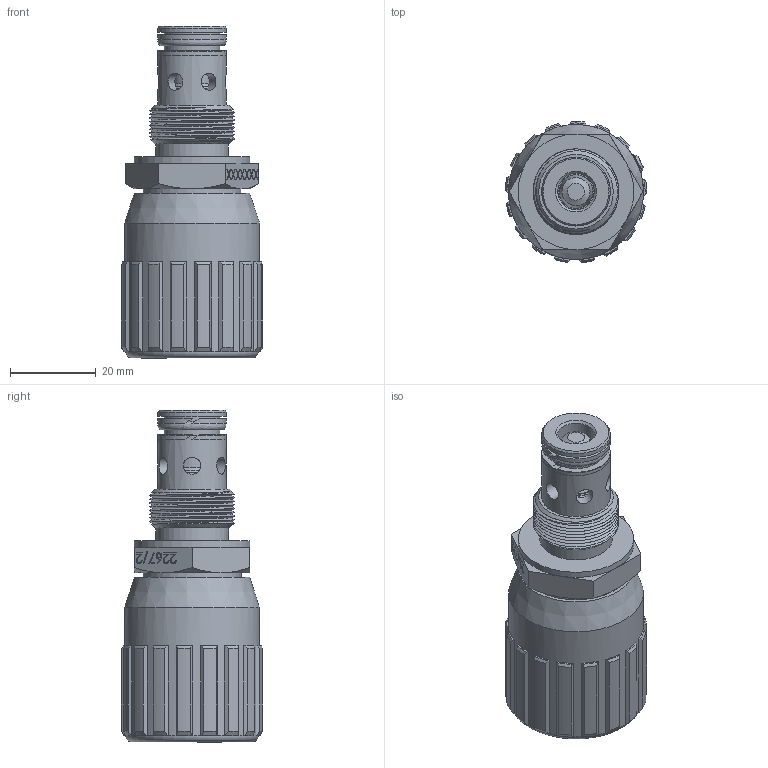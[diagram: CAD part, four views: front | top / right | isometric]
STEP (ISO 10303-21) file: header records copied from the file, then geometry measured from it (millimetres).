
FILE_DESCRIPTION (( 'STEP AP214' ), '1' );
FILE_NAME ('2267-2-38 VOLANTINO ALLUMINIO.STEP', '2025-10-30T14:44:41', ( '' ), ( '' ), 'SwSTEP 2.0', 'SolidWorks 2025', '' );
FILE_SCHEMA (( 'AUTOMOTIVE_DESIGN' ));
Length unit declared in the file: millimetre
Products named in the file (13): OR 108_OR108; VOLANTINO DI MANOVRA 257-2.005.00-38_Tipo38; CAPPUCCIO VOLANTINO 257-2.007.00-38_Tipo38; ANELLO DI FERMO 1251-2.003.00-12; GRANO DI BLOCCAGGIO M5X8_Tipo18; SPILLO DI REGOLAZIONE 2267-2.002.00-38; OR 2050; DISCO FASCETTA 257-1.004.00-38; BK 108_BK108; VITE TESTA BOMBATA 2257-2.006.00-12; ANELLO ANTI ESTRUSIONE 267-2.022.00-38; 2267-2-38 VOLANTINO ALLUMINIO; CORPO CARTUCCIA FILETTATA 2267-2.101.00-38
Assembly tree (13 placements, depth 2):
  2267-2-38 VOLANTINO ALLUMINIO
    CORPO CARTUCCIA FILETTATA 2267-2.101.00-38
    SPILLO DI REGOLAZIONE 2267-2.002.00-38
    BK 108_BK108
    OR 108_OR108
    GRANO DI BLOCCAGGIO M5X8_Tipo18
    OR 2050
    ANELLO ANTI ESTRUSIONE 267-2.022.00-38  x2
    CAPPUCCIO VOLANTINO 257-2.007.00-38_Tipo38
    VOLANTINO DI MANOVRA 257-2.005.00-38_Tipo38
    DISCO FASCETTA 257-1.004.00-38
    VITE TESTA BOMBATA 2257-2.006.00-12
    ANELLO DI FERMO 1251-2.003.00-12
Bounding box: 32.99 x 32.96 x 77.5 mm (x, y, z)
Volume: 33256.3 mm3; surface area: 24935.8 mm2
Topology: 13 solids, 13 shells, 978 faces, 2423 edges, 1535 vertices
Faces by surface type: plane 516, cone 272, cylinder 95, bspline 78, torus 16, sphere 1
Full cylindrical faces by diameter (mm): 2.5 x1, 3.3 x1, 4 x7, 5 x1, 5.8 x1, 8 x2, 8.5 x1, 8.9 x1, 9.4 x2, 9.5 x1, 10 x2, 10.5 x1, 11.5 x1, 12 x4, 12.7 x1, 13 x1, 13.6 x1, 16 x2, 17 x1, 18 x1, 18.5 x1, 22.3 x1, 22.4 x1, 22.9 x1, 27 x1, 31.5 x1
Entity records: 34923 total; most frequent: CARTESIAN_POINT 13206, ORIENTED_EDGE 4202, DIRECTION 4146, EDGE_CURVE 2101, VERTEX_POINT 1486, AXIS2_PLACEMENT_3D 1434, EDGE_LOOP 1321, VECTOR 1278
